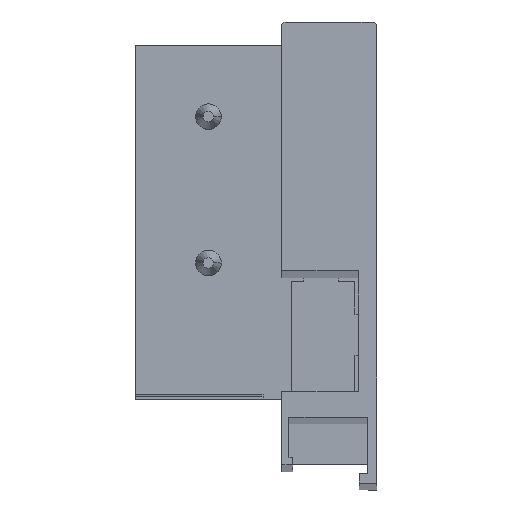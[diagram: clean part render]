
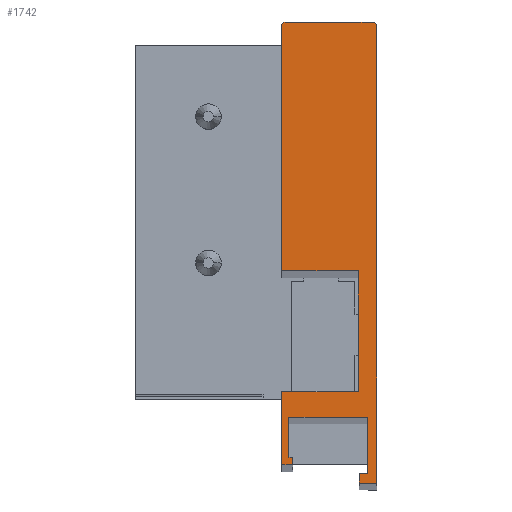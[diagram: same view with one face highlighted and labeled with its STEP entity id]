
A CAD part, top view. The second image highlights one B-rep face of the part: STEP entity #1742.
In plain terms, the highlighted planar face has unit normal (0, 0, 1).
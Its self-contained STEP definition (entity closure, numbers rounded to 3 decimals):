
#16 = CARTESIAN_POINT ( 'NONE',  ( 1.5, -25.5, 0. ) ) ;
#22 = CARTESIAN_POINT ( 'NONE',  ( 10.6, -29., 0. ) ) ;
#34 = VERTEX_POINT ( 'NONE', #784 ) ;
#52 = EDGE_CURVE ( 'NONE', #271, #539, #1973, .T. ) ;
#72 = CARTESIAN_POINT ( 'NONE',  ( 11.7, -27.7, 0. ) ) ;
#74 = VECTOR ( 'NONE', #2075, 1000. ) ;
#82 = EDGE_CURVE ( 'NONE', #34, #252, #134, .T. ) ;
#106 = DIRECTION ( 'NONE',  ( 0., 1., 0. ) ) ;
#111 = ORIENTED_EDGE ( 'NONE', *, *, #915, .T. ) ;
#112 = ORIENTED_EDGE ( 'NONE', *, *, #2126, .T. ) ;
#113 = CARTESIAN_POINT ( 'NONE',  ( 11.7, -27.7, 0. ) ) ;
#134 = LINE ( 'NONE', #631, #636 ) ;
#137 = CARTESIAN_POINT ( 'NONE',  ( 12.5, 33.5, 0. ) ) ;
#142 = CARTESIAN_POINT ( 'NONE',  ( 1.5, -26.5, 0. ) ) ;
#145 = ORIENTED_EDGE ( 'NONE', *, *, #1453, .T. ) ;
#152 = DIRECTION ( 'NONE',  ( 0., 1., 0. ) ) ;
#153 = FACE_OUTER_BOUND ( 'NONE', #664, .T. ) ;
#157 = VECTOR ( 'NONE', #819, 1000. ) ;
#161 = DIRECTION ( 'NONE',  ( 0., -1., 0. ) ) ;
#174 = ORIENTED_EDGE ( 'NONE', *, *, #677, .T. ) ;
#179 = CARTESIAN_POINT ( 'NONE',  ( 1., -19.969, 0. ) ) ;
#184 = VECTOR ( 'NONE', #440, 1000. ) ;
#212 = VECTOR ( 'NONE', #367, 1000. ) ;
#252 = VERTEX_POINT ( 'NONE', #2015 ) ;
#255 = VECTOR ( 'NONE', #314, 1000. ) ;
#271 = VERTEX_POINT ( 'NONE', #1016 ) ;
#302 = CARTESIAN_POINT ( 'NONE',  ( 0.5, 34., 0. ) ) ;
#305 = DIRECTION ( 'NONE',  ( 1., 0., 0. ) ) ;
#314 = DIRECTION ( 'NONE',  ( 0., -1., 0. ) ) ;
#315 = LINE ( 'NONE', #22, #609 ) ;
#340 = CIRCLE ( 'NONE', #1915, 0.5 ) ;
#367 = DIRECTION ( 'NONE',  ( 1., 0., 0. ) ) ;
#397 = LINE ( 'NONE', #16, #1682 ) ;
#400 = AXIS2_PLACEMENT_3D ( 'NONE', #1907, #899, #2076 ) ;
#419 = VECTOR ( 'NONE', #2153, 1000. ) ;
#438 = CARTESIAN_POINT ( 'NONE',  ( 11.7, -19.969, 0. ) ) ;
#440 = DIRECTION ( 'NONE',  ( 0., -1., 0. ) ) ;
#475 = LINE ( 'NONE', #786, #2156 ) ;
#481 = DIRECTION ( 'NONE',  ( 1., 0., 0. ) ) ;
#484 = ORIENTED_EDGE ( 'NONE', *, *, #52, .T. ) ;
#486 = CARTESIAN_POINT ( 'NONE',  ( 0., 0., 0. ) ) ;
#501 = VECTOR ( 'NONE', #1496, 1000. ) ;
#512 = VECTOR ( 'NONE', #161, 1000. ) ;
#514 = CARTESIAN_POINT ( 'NONE',  ( 1., -25.5, 0. ) ) ;
#539 = VERTEX_POINT ( 'NONE', #72 ) ;
#546 = ORIENTED_EDGE ( 'NONE', *, *, #1762, .T. ) ;
#564 = DIRECTION ( 'NONE',  ( 0., 0., -1. ) ) ;
#570 = ORIENTED_EDGE ( 'NONE', *, *, #1470, .T. ) ;
#595 = ORIENTED_EDGE ( 'NONE', *, *, #761, .T. ) ;
#609 = VECTOR ( 'NONE', #1376, 1000. ) ;
#620 = VERTEX_POINT ( 'NONE', #179 ) ;
#631 = CARTESIAN_POINT ( 'NONE',  ( 0., -16.5, 0. ) ) ;
#636 = VECTOR ( 'NONE', #1806, 1000. ) ;
#664 = EDGE_LOOP ( 'NONE', ( #174, #1463, #1823, #1443, #595, #112, #889, #570, #1044, #2111, #145, #1877, #1302, #1019, #111, #484, #546, #1879 ) ) ;
#666 = VERTEX_POINT ( 'NONE', #866 ) ;
#674 = EDGE_CURVE ( 'NONE', #876, #1511, #315, .T. ) ;
#677 = EDGE_CURVE ( 'NONE', #1511, #1041, #1060, .T. ) ;
#700 = CARTESIAN_POINT ( 'NONE',  ( 1.5, -25.5, 0. ) ) ;
#739 = CARTESIAN_POINT ( 'NONE',  ( 12.5, 34., 0. ) ) ;
#740 = VECTOR ( 'NONE', #152, 1000. ) ;
#761 = EDGE_CURVE ( 'NONE', #1440, #1408, #2134, .T. ) ;
#763 = LINE ( 'NONE', #1655, #1656 ) ;
#772 = VERTEX_POINT ( 'NONE', #1398 ) ;
#784 = CARTESIAN_POINT ( 'NONE',  ( 10.5, -16.5, 0. ) ) ;
#786 = CARTESIAN_POINT ( 'NONE',  ( 13., 33.5, 0. ) ) ;
#804 = VERTEX_POINT ( 'NONE', #739 ) ;
#819 = DIRECTION ( 'NONE',  ( -1., 0., 0. ) ) ;
#864 = CARTESIAN_POINT ( 'NONE',  ( 0., -26.5, 0. ) ) ;
#866 = CARTESIAN_POINT ( 'NONE',  ( 13., 33.5, 0. ) ) ;
#876 = VERTEX_POINT ( 'NONE', #1093 ) ;
#889 = ORIENTED_EDGE ( 'NONE', *, *, #1423, .T. ) ;
#899 = DIRECTION ( 'NONE',  ( 0., 0., 1. ) ) ;
#915 = EDGE_CURVE ( 'NONE', #620, #271, #1816, .T. ) ;
#921 = VECTOR ( 'NONE', #1286, 1000. ) ;
#968 = EDGE_CURVE ( 'NONE', #1041, #666, #475, .T. ) ;
#980 = CARTESIAN_POINT ( 'NONE',  ( 10.5, 0., 0. ) ) ;
#1016 = CARTESIAN_POINT ( 'NONE',  ( 11.7, -19.969, 0. ) ) ;
#1019 = ORIENTED_EDGE ( 'NONE', *, *, #2110, .T. ) ;
#1041 = VERTEX_POINT ( 'NONE', #1641 ) ;
#1044 = ORIENTED_EDGE ( 'NONE', *, *, #82, .T. ) ;
#1060 = LINE ( 'NONE', #1206, #212 ) ;
#1093 = CARTESIAN_POINT ( 'NONE',  ( 10.6, -27.7, 0. ) ) ;
#1125 = EDGE_CURVE ( 'NONE', #1647, #1565, #1839, .T. ) ;
#1153 = CARTESIAN_POINT ( 'NONE',  ( 10.5, -16.5, 0. ) ) ;
#1206 = CARTESIAN_POINT ( 'NONE',  ( 13., -29., 0. ) ) ;
#1212 = LINE ( 'NONE', #1153, #255 ) ;
#1236 = CARTESIAN_POINT ( 'NONE',  ( 0.5, 33.5, 0. ) ) ;
#1286 = DIRECTION ( 'NONE',  ( 1., 0., 0. ) ) ;
#1295 = DIRECTION ( 'NONE',  ( 0., -1., 0. ) ) ;
#1297 = EDGE_CURVE ( 'NONE', #252, #1703, #1533, .T. ) ;
#1302 = ORIENTED_EDGE ( 'NONE', *, *, #1125, .T. ) ;
#1317 = DIRECTION ( 'NONE',  ( 0., 0., 1. ) ) ;
#1376 = DIRECTION ( 'NONE',  ( 0., -1., 0. ) ) ;
#1398 = CARTESIAN_POINT ( 'NONE',  ( 10.5, 0., 0. ) ) ;
#1408 = VERTEX_POINT ( 'NONE', #2145 ) ;
#1410 = CARTESIAN_POINT ( 'NONE',  ( 10.6, -27.7, 0. ) ) ;
#1423 = EDGE_CURVE ( 'NONE', #1548, #772, #2102, .T. ) ;
#1439 = VERTEX_POINT ( 'NONE', #142 ) ;
#1440 = VERTEX_POINT ( 'NONE', #302 ) ;
#1443 = ORIENTED_EDGE ( 'NONE', *, *, #2072, .T. ) ;
#1453 = EDGE_CURVE ( 'NONE', #1703, #1439, #763, .T. ) ;
#1463 = ORIENTED_EDGE ( 'NONE', *, *, #968, .T. ) ;
#1470 = EDGE_CURVE ( 'NONE', #772, #34, #1212, .T. ) ;
#1496 = DIRECTION ( 'NONE',  ( -1., 0., 0. ) ) ;
#1511 = VERTEX_POINT ( 'NONE', #2173 ) ;
#1533 = LINE ( 'NONE', #864, #184 ) ;
#1548 = VERTEX_POINT ( 'NONE', #2177 ) ;
#1552 = CARTESIAN_POINT ( 'NONE',  ( 0., -26.5, 0. ) ) ;
#1565 = VERTEX_POINT ( 'NONE', #514 ) ;
#1573 = PLANE ( 'NONE',  #1959 ) ;
#1588 = VECTOR ( 'NONE', #1295, 1000. ) ;
#1602 = EDGE_CURVE ( 'NONE', #1439, #1647, #397, .T. ) ;
#1641 = CARTESIAN_POINT ( 'NONE',  ( 13., -29., 0. ) ) ;
#1647 = VERTEX_POINT ( 'NONE', #700 ) ;
#1654 = CARTESIAN_POINT ( 'NONE',  ( 1., -25.5, 0. ) ) ;
#1655 = CARTESIAN_POINT ( 'NONE',  ( 1.5, -26.5, 0. ) ) ;
#1656 = VECTOR ( 'NONE', #481, 1000. ) ;
#1682 = VECTOR ( 'NONE', #1705, 1000. ) ;
#1703 = VERTEX_POINT ( 'NONE', #1552 ) ;
#1705 = DIRECTION ( 'NONE',  ( 0., 1., 0. ) ) ;
#1737 = LINE ( 'NONE', #1820, #157 ) ;
#1740 = DIRECTION ( 'NONE',  ( -1., 0., 0. ) ) ;
#1742 = ADVANCED_FACE ( 'NONE', ( #153 ), #1573, .F. ) ;
#1761 = LINE ( 'NONE', #1410, #74 ) ;
#1762 = EDGE_CURVE ( 'NONE', #539, #876, #1761, .T. ) ;
#1764 = LINE ( 'NONE', #2168, #740 ) ;
#1806 = DIRECTION ( 'NONE',  ( -1., 0., 0. ) ) ;
#1816 = LINE ( 'NONE', #438, #921 ) ;
#1820 = CARTESIAN_POINT ( 'NONE',  ( 0.5, 34., 0. ) ) ;
#1823 = ORIENTED_EDGE ( 'NONE', *, *, #2067, .T. ) ;
#1839 = LINE ( 'NONE', #1654, #501 ) ;
#1877 = ORIENTED_EDGE ( 'NONE', *, *, #1602, .T. ) ;
#1879 = ORIENTED_EDGE ( 'NONE', *, *, #674, .T. ) ;
#1907 = CARTESIAN_POINT ( 'NONE',  ( 0.5, 33.5, 0. ) ) ;
#1915 = AXIS2_PLACEMENT_3D ( 'NONE', #137, #1317, #305 ) ;
#1959 = AXIS2_PLACEMENT_3D ( 'NONE', #1236, #564, #1740 ) ;
#1973 = LINE ( 'NONE', #113, #1588 ) ;
#2015 = CARTESIAN_POINT ( 'NONE',  ( 0., -16.5, 0. ) ) ;
#2067 = EDGE_CURVE ( 'NONE', #666, #804, #340, .T. ) ;
#2072 = EDGE_CURVE ( 'NONE', #804, #1440, #1737, .T. ) ;
#2075 = DIRECTION ( 'NONE',  ( -1., 0., 0. ) ) ;
#2076 = DIRECTION ( 'NONE',  ( -1., 0., 0. ) ) ;
#2087 = LINE ( 'NONE', #486, #512 ) ;
#2102 = LINE ( 'NONE', #980, #419 ) ;
#2110 = EDGE_CURVE ( 'NONE', #1565, #620, #1764, .T. ) ;
#2111 = ORIENTED_EDGE ( 'NONE', *, *, #1297, .T. ) ;
#2126 = EDGE_CURVE ( 'NONE', #1408, #1548, #2087, .T. ) ;
#2134 = CIRCLE ( 'NONE', #400, 0.5 ) ;
#2145 = CARTESIAN_POINT ( 'NONE',  ( 0., 33.5, 0. ) ) ;
#2153 = DIRECTION ( 'NONE',  ( 1., 0., 0. ) ) ;
#2156 = VECTOR ( 'NONE', #106, 1000. ) ;
#2168 = CARTESIAN_POINT ( 'NONE',  ( 1., -19.969, 0. ) ) ;
#2173 = CARTESIAN_POINT ( 'NONE',  ( 10.6, -29., 0. ) ) ;
#2177 = CARTESIAN_POINT ( 'NONE',  ( 0., 0., 0. ) ) ;
